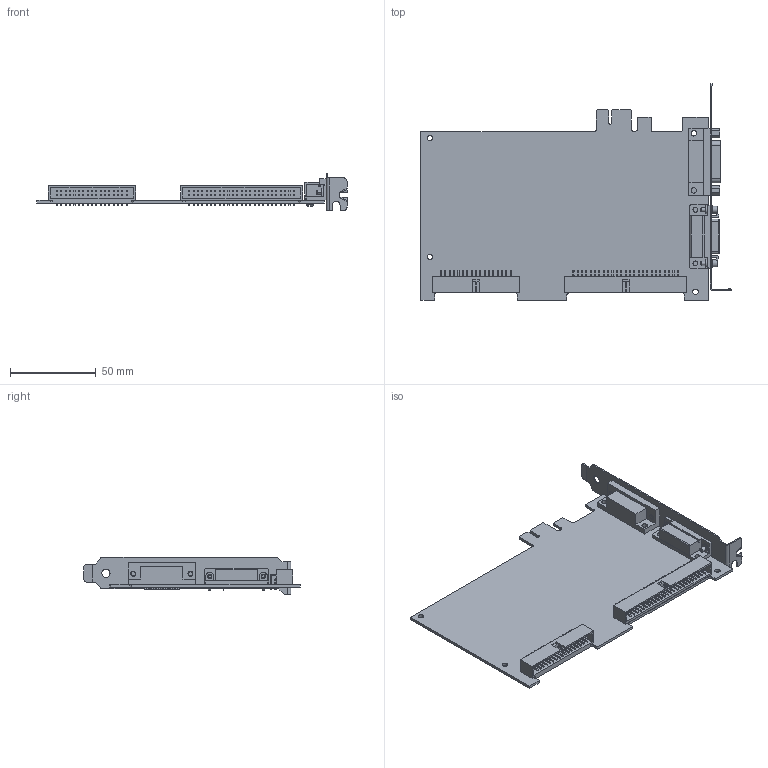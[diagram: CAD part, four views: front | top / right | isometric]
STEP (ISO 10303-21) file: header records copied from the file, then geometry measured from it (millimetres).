
FILE_DESCRIPTION((''),'2;1');
FILE_NAME('CU_PCIE-1427','2011-08-16T',('dkendric'),(''),'PRO/ENGINEER BY PARAMETRIC TECHNOLOGY CORPORATION, 2010230','PRO/ENGINEER BY PARAMETRIC TECHNOLOGY CORPORATION, 2010230','');
FILE_SCHEMA(('CONFIG_CONTROL_DESIGN'));
Length unit declared in the file: inch
Products named in the file (1): CU_PCIE-1427
Bounding box: 180.94 x 126.31 x 21.59 mm (x, y, z)
Volume: 42360.5 mm3; surface area: 48411.7 mm2
Topology: 1 solids, 1 shells, 1912 faces, 5186 edges, 3428 vertices
Faces by surface type: plane 1505, cylinder 367, cone 24, torus 12, bspline 4
Entity records: 60351 total; most frequent: CARTESIAN_POINT 10875, ORIENTED_EDGE 10364, DIRECTION 9748, EDGE_CURVE 5182, VECTOR 4372, LINE 4372, VERTEX_POINT 3428, AXIS2_PLACEMENT_3D 2688
